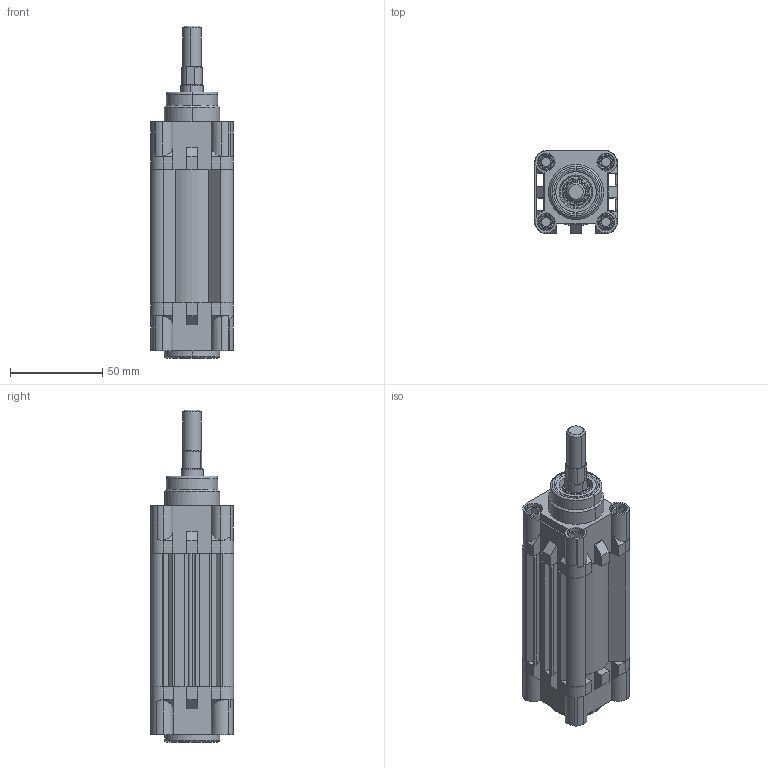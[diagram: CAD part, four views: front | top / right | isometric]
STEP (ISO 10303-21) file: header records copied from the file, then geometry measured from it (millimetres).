
FILE_DESCRIPTION (( 'STEP AP214' ), '1' );
FILE_NAME ('RIC_32_50_MY_WEB.STEP', '2020-07-18T17:16:23', ( '' ), ( '' ), 'SwSTEP 2.0', 'SolidWorks 2018', '' );
FILE_SCHEMA (( 'AUTOMOTIVE_DESIGN' ));
Length unit declared in the file: millimetre
Products named in the file (8): 32arkakapak; 32_BORU_WEB; ric32bogazkecesi; m6kapakcivatasi; 32önkapak; ric32kecemil; RIC_32_50_MY_WEB; 12_K_MIL_WEB_RIC32-25
Assembly tree (14 placements, depth 3):
  RIC_32_50_MY_WEB
    32_BORU_WEB
    32arkakapak
    32önkapak
    m6kapakcivatasi  x8
    ric32kecemil
      12_K_MIL_WEB_RIC32-25
    ric32bogazkecesi
Bounding box: 45 x 45.2 x 180.4 mm (x, y, z)
Volume: 155312.6 mm3; surface area: 83008.5 mm2
Topology: 13 solids, 13 shells, 783 faces, 1897 edges, 1206 vertices
Faces by surface type: plane 429, cylinder 194, cone 98, bspline 56, torus 6
Entity records: 22770 total; most frequent: CARTESIAN_POINT 6503, ORIENTED_EDGE 3010, DIRECTION 2881, EDGE_CURVE 1505, VERTEX_POINT 968, LINE 965, VECTOR 965, AXIS2_PLACEMENT_3D 958
